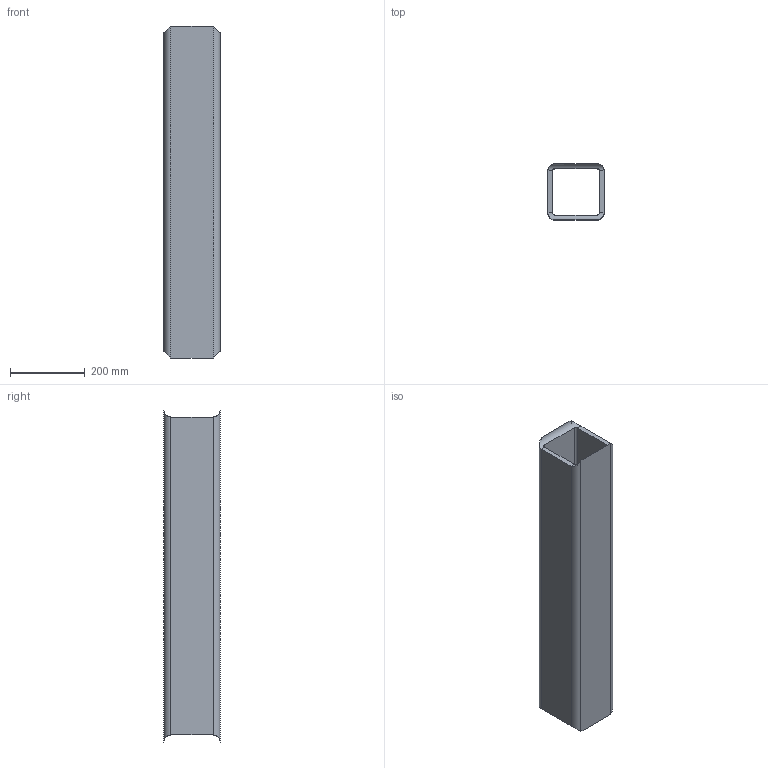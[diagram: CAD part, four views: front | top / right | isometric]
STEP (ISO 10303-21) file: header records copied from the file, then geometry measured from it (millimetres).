
FILE_DESCRIPTION(('Open CASCADE Model'),'2;1');
FILE_NAME('Open CASCADE Shape Model','2026-10-19T10:09:19',('Author'),( 'Open CASCADE'),'Open CASCADE STEP processor 8.0','Open CASCADE 8.0' ,'Unknown');
FILE_SCHEMA(('AUTOMOTIVE_DESIGN { 1 0 10303 214 1 1 1 1 }'));
Length unit declared in the file: millimetre
Products named in the file (1): SHS150x150x12p5_L850000_P05 15
Bounding box: 150 x 150 x 887.5 mm (x, y, z)
Volume: 5654889.3 mm3; surface area: 927659.6 mm2
Topology: 1 solids, 1 shells, 24 faces, 56 edges, 32 vertices
Faces by surface type: plane 12, cylinder 12
Entity records: 1782 total; most frequent: CARTESIAN_POINT 741, DIRECTION 158, ORIENTED_EDGE 112, PCURVE 112, DEFINITIONAL_REPRESENTATION 112, LINE 92, VECTOR 92, B_SPLINE_CURVE_WITH_KNOTS 68
